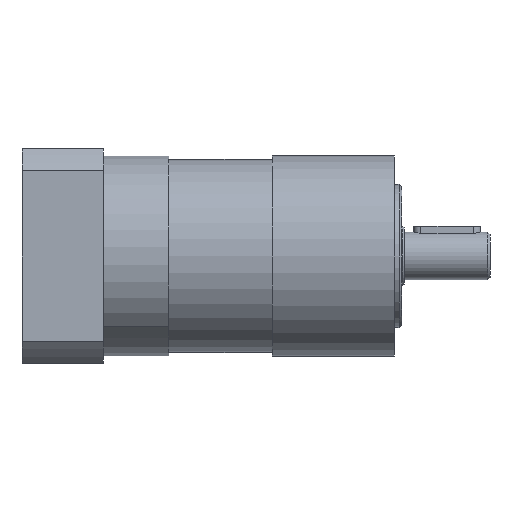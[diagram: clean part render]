
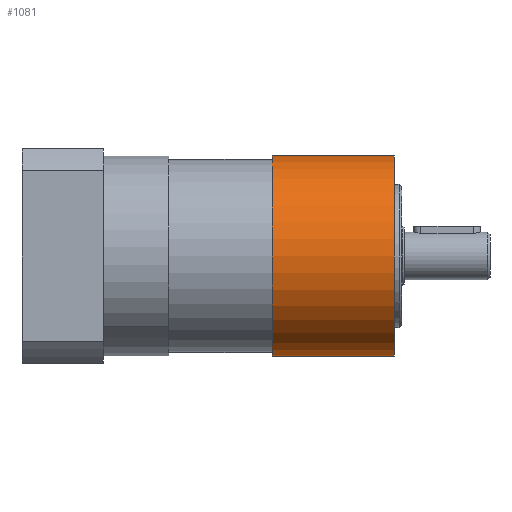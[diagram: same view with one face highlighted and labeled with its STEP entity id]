
A CAD part, left-side view. The second image highlights one B-rep face of the part: STEP entity #1081.
In plain terms, the highlighted cylindrical face has radius 42 mm (diameter 84 mm), a partial arc.
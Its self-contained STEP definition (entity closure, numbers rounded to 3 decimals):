
#451 = VECTOR ( 'NONE', #7261, 1000. ) ;
#624 = LINE ( 'NONE', #936, #1258 ) ;
#704 = ORIENTED_EDGE ( 'NONE', *, *, #2882, .T. ) ;
#727 = ORIENTED_EDGE ( 'NONE', *, *, #6530, .F. ) ;
#890 = VERTEX_POINT ( 'NONE', #4719 ) ;
#936 = CARTESIAN_POINT ( 'NONE',  ( 0., -125.2, -42. ) ) ;
#964 = CARTESIAN_POINT ( 'NONE',  ( 0., -125.2, 42. ) ) ;
#1001 = CARTESIAN_POINT ( 'NONE',  ( 0., -122.2, 0. ) ) ;
#1081 = ADVANCED_FACE ( 'NONE', ( #2093 ), #2702, .T. ) ;
#1102 = VERTEX_POINT ( 'NONE', #2128 ) ;
#1116 = ORIENTED_EDGE ( 'NONE', *, *, #4066, .T. ) ;
#1178 = AXIS2_PLACEMENT_3D ( 'NONE', #6557, #2604, #1496 ) ;
#1258 = VECTOR ( 'NONE', #2691, 1000. ) ;
#1496 = DIRECTION ( 'NONE',  ( 0., 0., 1. ) ) ;
#1631 = VERTEX_POINT ( 'NONE', #3136 ) ;
#1677 = CIRCLE ( 'NONE', #1178, 42. ) ;
#1739 = AXIS2_PLACEMENT_3D ( 'NONE', #7030, #3674, #3144 ) ;
#2093 = FACE_OUTER_BOUND ( 'NONE', #6112, .T. ) ;
#2128 = CARTESIAN_POINT ( 'NONE',  ( 0., -122.2, 42. ) ) ;
#2146 = ORIENTED_EDGE ( 'NONE', *, *, #5809, .F. ) ;
#2385 = CIRCLE ( 'NONE', #6172, 42. ) ;
#2604 = DIRECTION ( 'NONE',  ( 0., -1., 0. ) ) ;
#2691 = DIRECTION ( 'NONE',  ( 0., 1., 0. ) ) ;
#2702 = CYLINDRICAL_SURFACE ( 'NONE', #1739, 42. ) ;
#2882 = EDGE_CURVE ( 'NONE', #890, #1631, #1677, .T. ) ;
#3136 = CARTESIAN_POINT ( 'NONE',  ( 0., -71., -42. ) ) ;
#3144 = DIRECTION ( 'NONE',  ( 0., 0., -1. ) ) ;
#3674 = DIRECTION ( 'NONE',  ( 0., 1., 0. ) ) ;
#4066 = EDGE_CURVE ( 'NONE', #1102, #890, #5956, .T. ) ;
#4377 = DIRECTION ( 'NONE',  ( 0., -1., 0. ) ) ;
#4719 = CARTESIAN_POINT ( 'NONE',  ( 0., -71., 42. ) ) ;
#5514 = DIRECTION ( 'NONE',  ( 0., 0., 1. ) ) ;
#5809 = EDGE_CURVE ( 'NONE', #1102, #6911, #2385, .T. ) ;
#5956 = LINE ( 'NONE', #964, #451 ) ;
#6112 = EDGE_LOOP ( 'NONE', ( #2146, #1116, #704, #727 ) ) ;
#6141 = CARTESIAN_POINT ( 'NONE',  ( 0., -122.2, -42. ) ) ;
#6172 = AXIS2_PLACEMENT_3D ( 'NONE', #1001, #4377, #5514 ) ;
#6530 = EDGE_CURVE ( 'NONE', #6911, #1631, #624, .T. ) ;
#6557 = CARTESIAN_POINT ( 'NONE',  ( 0., -71., 0. ) ) ;
#6911 = VERTEX_POINT ( 'NONE', #6141 ) ;
#7030 = CARTESIAN_POINT ( 'NONE',  ( 0., -125.2, 0. ) ) ;
#7261 = DIRECTION ( 'NONE',  ( 0., 1., 0. ) ) ;
